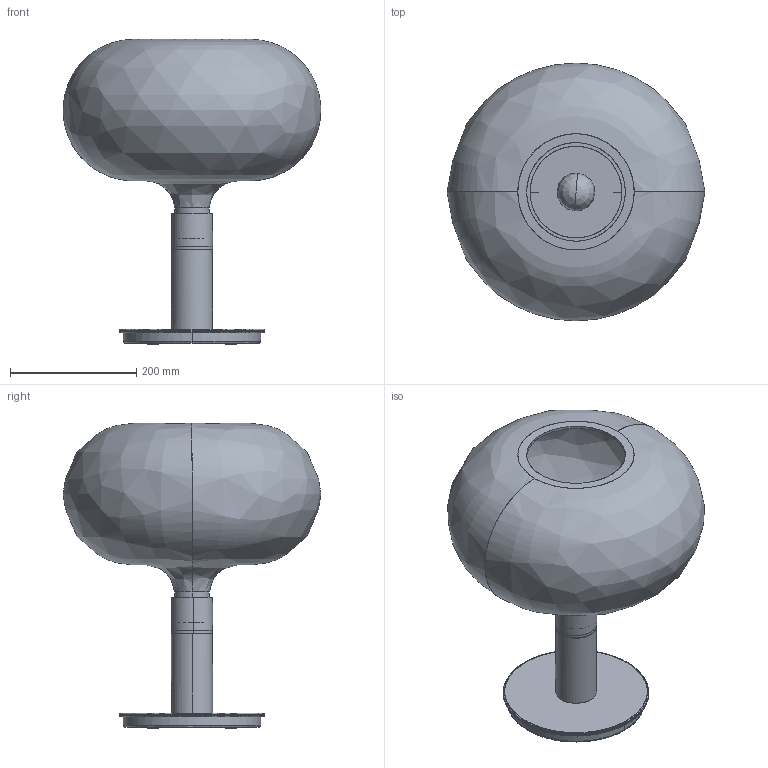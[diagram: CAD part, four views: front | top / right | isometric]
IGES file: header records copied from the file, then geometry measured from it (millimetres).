
Global section: file name: C:\Users\tungari.NEMOLIGHTING\Desktop\3D\TABLE\3D_AM1N\DEFEATURE\Nuova cartella\3D_AM1N.igs; native system: Rhinoceros ( Jun 17 2014 ); preprocessor: Trout Lake IGES 012 Jun 17 2014; date: 180228.184632; units: millimetre
Bounding box: 407.53 x 408 x 483 mm (x, y, z)
Surface area: 720622 mm2 (no closed solid volume)
Topology: 0 solids, 0 shells, 197 faces, 2797 edges, 2791 vertices
Faces by surface type: bspline 197
